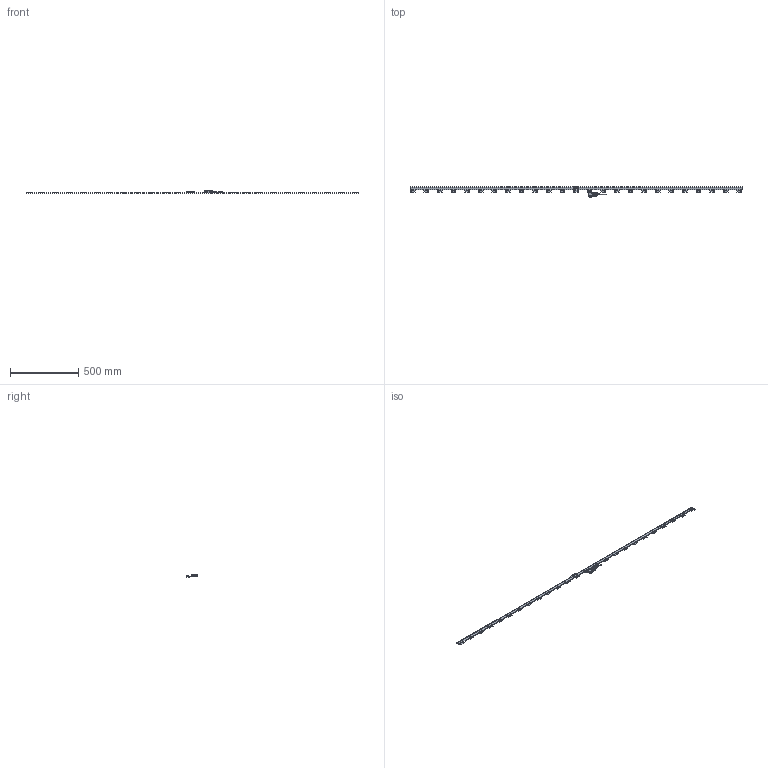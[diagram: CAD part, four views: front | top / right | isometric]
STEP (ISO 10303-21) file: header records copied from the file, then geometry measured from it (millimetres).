
FILE_DESCRIPTION(('Creo Elements/Direct Modeling STEP Export'),'2;1');
FILE_NAME('ST46EZA-2400A.stp','2017-09-07T 9:26:19',(''),(''),'Creo Elements/Direct Modeling STEP processor for AP214 (Solid Model)','Creo Elements/Direct Modeling 18.1B 29-Sep-2012 (C) Parametric Technology GmbH','');
FILE_SCHEMA(('AUTOMOTIVE_DESIGN { 1 0 10303 214 1 1 1 1 }'));
Length unit declared in the file: millimetre
Products named in the file (4): Detector_Head; IF_Unit; Scale_2400; ST46EZA_2400A
Assembly tree (3 placements, depth 2):
  ST46EZA_2400A
    Scale_2400
    IF_Unit
    Detector_Head
Bounding box: 2440 x 78.25 x 21.95 mm (x, y, z)
Volume: 265189.4 mm3; surface area: 173461.9 mm2
Topology: 2 solids, 7 shells, 3308 faces, 9062 edges, 5928 vertices
Faces by surface type: plane 1983, cylinder 1149, extrusion 63, cone 50, torus 30, bspline 29, revolution 4
Entity records: 107904 total; most frequent: CARTESIAN_POINT 25586, ORIENTED_EDGE 18115, DIRECTION 15671, EDGE_CURVE 9062, VECTOR 5969, LINE 5941, VERTEX_POINT 5928, AXIS2_PLACEMENT_3D 4848
